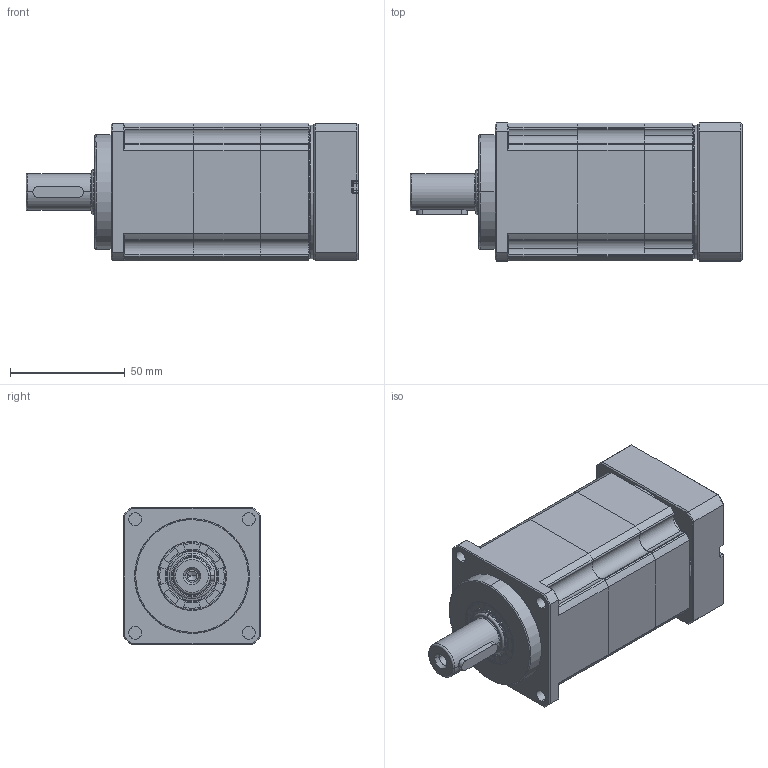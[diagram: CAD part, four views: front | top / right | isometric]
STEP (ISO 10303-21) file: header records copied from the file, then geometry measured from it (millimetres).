
FILE_DESCRIPTION (( 'STEP AP214' ), '1' );
FILE_NAME ('FAB060D-L2-14-50-70-M5-34.STEP', '2021-04-24T10:14:24', ( '微软用户' ), ( '微软中国' ), 'SwSTEP 2.0', 'SolidWorks 2014', '' );
FILE_SCHEMA (( 'AUTOMOTIVE_DESIGN' ));
Length unit declared in the file: millimetre
Products named in the file (26): 蚐猾20304; PAB060D怀堤俴陎殤1; hexagon socket head cap screws gb_GB_FASTENER_SCREWS_HSHCS M4X16-N; 输入太阳齿轮060D-14; 坶踡遠18-37-12(1); PAB060D齿圈; 1-输入端壳体PAB060D; hex socket set screws with cone point gb_GB_FASTENER_SCREWS_HSCP M10X10-N; A倰す瑩5-22; 11-输入法兰PAB060D-50-70-M5.; PAB060D-Z108一级内齿圈; FAB060D-L2-14-50-70-M5-34
Assembly tree (14 placements, depth 2):
  hexagon socket head cap screws gb_GB_FASTENER_SCREWS_HSHCS M4X16-N
  hexagon socket head cap screws gb_GB_FASTENER_SCREWS_HSHCS M4X16-N
  hexagon socket head cap screws gb_GB_FASTENER_SCREWS_HSHCS M4X16-N
  hexagon socket head cap screws gb_GB_FASTENER_SCREWS_HSHCS M4X16-N
  hex socket set screws with cone point gb_GB_FASTENER_SCREWS_HSCP M10X10-N
Bounding box: 144.5 x 60 x 60 mm (x, y, z)
Volume: 337118.9 mm3; surface area: 77333.5 mm2
Topology: 15 solids, 15 shells, 945 faces, 2303 edges, 1383 vertices
Faces by surface type: cylinder 309, plane 275, cone 181, bspline 165, torus 15
Entity records: 43810 total; most frequent: CARTESIAN_POINT 13859, ORIENTED_EDGE 4166, DIRECTION 4118, EDGE_CURVE 2083, AXIS2_PLACEMENT_3D 1642, VERTEX_POINT 1284, EDGE_LOOP 951, CIRCLE 913
